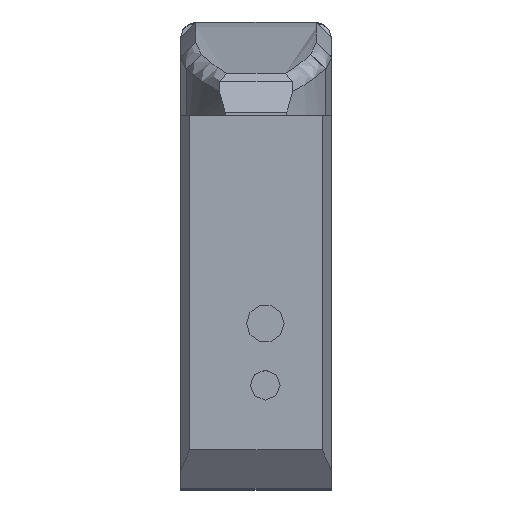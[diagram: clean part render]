
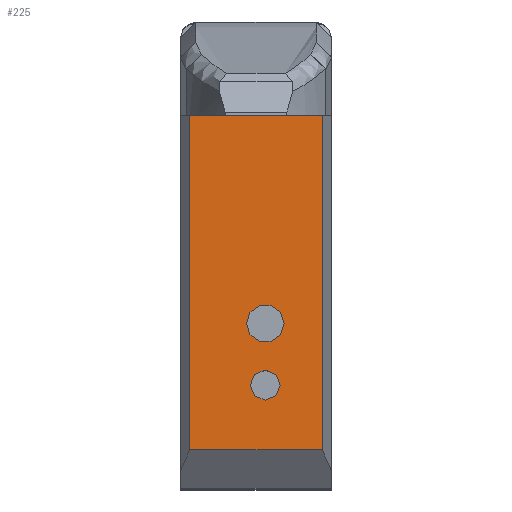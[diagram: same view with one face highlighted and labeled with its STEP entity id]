
A CAD part, top view. The second image highlights one B-rep face of the part: STEP entity #225.
In plain terms, the highlighted planar face has unit normal (0, 0, 1).
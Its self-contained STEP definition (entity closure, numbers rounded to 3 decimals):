
#225 = ADVANCED_FACE( '', ( #509, #510, #511 ), #512, .F. );
#509 = FACE_OUTER_BOUND( '', #1031, .T. );
#510 = FACE_BOUND( '', #1032, .T. );
#511 = FACE_BOUND( '', #1033, .T. );
#512 = PLANE( '', #1034 );
#1031 = EDGE_LOOP( '', ( #1586, #1587, #1588, #1589, #1590, #1591 ) );
#1032 = EDGE_LOOP( '', ( #1592 ) );
#1033 = EDGE_LOOP( '', ( #1593 ) );
#1034 = AXIS2_PLACEMENT_3D( '', #1594, #1595, #1596 );
#1586 = ORIENTED_EDGE( '', *, *, #2255, .F. );
#1587 = ORIENTED_EDGE( '', *, *, #2213, .T. );
#1588 = ORIENTED_EDGE( '', *, *, #2256, .T. );
#1589 = ORIENTED_EDGE( '', *, *, #2257, .T. );
#1590 = ORIENTED_EDGE( '', *, *, #2258, .F. );
#1591 = ORIENTED_EDGE( '', *, *, #2050, .F. );
#1592 = ORIENTED_EDGE( '', *, *, #2122, .F. );
#1593 = ORIENTED_EDGE( '', *, *, #2259, .F. );
#1594 = CARTESIAN_POINT( '', ( 4.9, -0.3, 20.7 ) );
#1595 = DIRECTION( '', ( 0., 0., -1. ) );
#1596 = DIRECTION( '', ( 0., -1., 0. ) );
#2050 = EDGE_CURVE( '', #2379, #2382, #2383, .F. );
#2122 = EDGE_CURVE( '', #2502, #2502, #2503, .T. );
#2213 = EDGE_CURVE( '', #2654, #2652, #2655, .F. );
#2255 = EDGE_CURVE( '', #2654, #2379, #2716, .T. );
#2256 = EDGE_CURVE( '', #2652, #2717, #2718, .F. );
#2257 = EDGE_CURVE( '', #2717, #2521, #2719, .F. );
#2258 = EDGE_CURVE( '', #2382, #2521, #2720, .F. );
#2259 = EDGE_CURVE( '', #2721, #2721, #2722, .T. );
#2379 = VERTEX_POINT( '', #2867 );
#2382 = VERTEX_POINT( '', #2871 );
#2383 = LINE( '', #2872, #2873 );
#2502 = VERTEX_POINT( '', #3165 );
#2503 = CIRCLE( '', #3166, 0.975 );
#2521 = VERTEX_POINT( '', #3293 );
#2652 = VERTEX_POINT( '', #3623 );
#2654 = VERTEX_POINT( '', #3626 );
#2655 = LINE( '', #3627, #3628 );
#2716 = LINE( '', #3725, #3726 );
#2717 = VERTEX_POINT( '', #3727 );
#2718 = LINE( '', #3728, #3729 );
#2719 = LINE( '', #3730, #3731 );
#2720 = LINE( '', #3732, #3733 );
#2721 = VERTEX_POINT( '', #3734 );
#2722 = CIRCLE( '', #3735, 1.225 );
#2867 = CARTESIAN_POINT( '', ( -4.299, -0.3, 20.7 ) );
#2871 = CARTESIAN_POINT( '', ( -4.299, 21.4, 20.7 ) );
#2872 = CARTESIAN_POINT( '', ( -4.299, -0.3, 20.7 ) );
#2873 = VECTOR( '', #3930, 1000. );
#3165 = CARTESIAN_POINT( '', ( 1.575, 3.9, 20.7 ) );
#3166 = AXIS2_PLACEMENT_3D( '', #4012, #4013, #4014 );
#3293 = CARTESIAN_POINT( '', ( -3.731, 21.4, 20.7 ) );
#3623 = CARTESIAN_POINT( '', ( 4.299, 21.4, 20.7 ) );
#3626 = CARTESIAN_POINT( '', ( 4.299, -0.3, 20.7 ) );
#3627 = CARTESIAN_POINT( '', ( 4.299, -2.8, 20.7 ) );
#3628 = VECTOR( '', #4103, 1000. );
#3725 = CARTESIAN_POINT( '', ( 4.9, -0.3, 20.7 ) );
#3726 = VECTOR( '', #4148, 1000. );
#3727 = CARTESIAN_POINT( '', ( 3.731, 21.4, 20.7 ) );
#3728 = CARTESIAN_POINT( '', ( 4.9, 21.4, 20.7 ) );
#3729 = VECTOR( '', #4149, 1000. );
#3730 = CARTESIAN_POINT( '', ( 4.9, 21.4, 20.7 ) );
#3731 = VECTOR( '', #4150, 1000. );
#3732 = CARTESIAN_POINT( '', ( 766.269, 21.4, 20.7 ) );
#3733 = VECTOR( '', #4151, 1000. );
#3734 = CARTESIAN_POINT( '', ( 1.825, 7.9, 20.7 ) );
#3735 = AXIS2_PLACEMENT_3D( '', #4152, #4153, #4154 );
#3930 = DIRECTION( '', ( 0., -1., 0. ) );
#4012 = CARTESIAN_POINT( '', ( 0.6, 3.9, 20.7 ) );
#4013 = DIRECTION( '', ( 0., 0., 1. ) );
#4014 = DIRECTION( '', ( 1., 0., 0. ) );
#4103 = DIRECTION( '', ( 0., -1., 0. ) );
#4148 = DIRECTION( '', ( -1., 0., 0. ) );
#4149 = DIRECTION( '', ( 1., 0., 0. ) );
#4150 = DIRECTION( '', ( 1., 0., 0. ) );
#4151 = DIRECTION( '', ( -1., 0., 0. ) );
#4152 = CARTESIAN_POINT( '', ( 0.6, 7.9, 20.7 ) );
#4153 = DIRECTION( '', ( 0., 0., 1. ) );
#4154 = DIRECTION( '', ( 1., 0., 0. ) );
